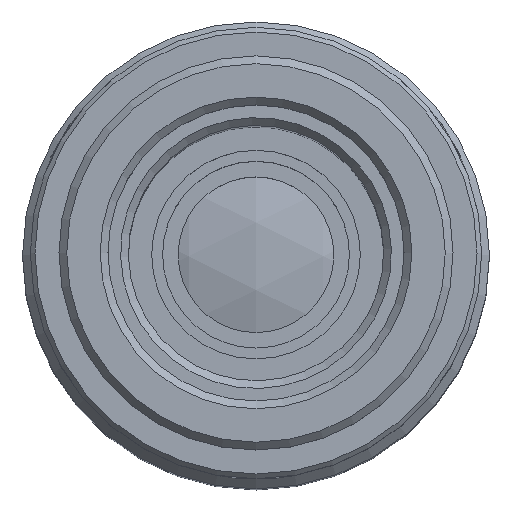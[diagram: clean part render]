
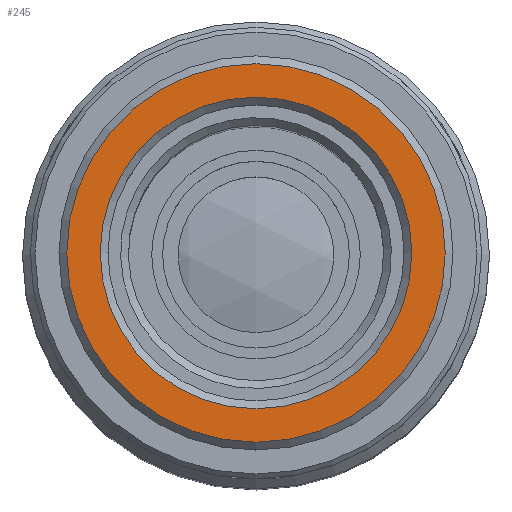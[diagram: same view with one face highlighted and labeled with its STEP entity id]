
A CAD part, top view. The second image highlights one B-rep face of the part: STEP entity #245.
In plain terms, the highlighted planar face has unit normal (0, 0, 1).
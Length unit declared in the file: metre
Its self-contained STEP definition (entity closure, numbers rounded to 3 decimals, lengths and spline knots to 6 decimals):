
#245=ADVANCED_FACE('NONE',(#615,#616),#617,.F.);
#615=FACE_BOUND('',#1223,.T.);
#616=FACE_OUTER_BOUND('',#1224,.T.);
#617=PLANE('',#1225);
#1223=EDGE_LOOP('',(#1931));
#1224=EDGE_LOOP('',(#1932));
#1225=AXIS2_PLACEMENT_3D('',#1933,#1934,#1935);
#1931=ORIENTED_EDGE('',*,*,#2908,.T.);
#1932=ORIENTED_EDGE('',*,*,#2909,.T.);
#1933=CARTESIAN_POINT('',(0.,0.01266,0.0));
#1934=DIRECTION('',(0.,0.0,-1.0));
#1935=DIRECTION('',(-1.0,0.0,0.));
#2908=EDGE_CURVE('NONE',#3346,#3346,#3347,.T.);
#2909=EDGE_CURVE('NONE',#3348,#3348,#3349,.T.);
#3346=VERTEX_POINT('',#4197);
#3347=CIRCLE('',#4198,0.01001);
#3348=VERTEX_POINT('',#4199);
#3349=CIRCLE('',#4200,0.01216);
#4197=CARTESIAN_POINT('',(-0.01001,0.,0.));
#4198=AXIS2_PLACEMENT_3D('',#4999,#5000,#5001);
#4199=CARTESIAN_POINT('',(-0.01216,0.,0.));
#4200=AXIS2_PLACEMENT_3D('',#5002,#5003,#5004);
#4999=CARTESIAN_POINT('',(0.,0.,0.0));
#5000=DIRECTION('',(0.,0.0,-1.0));
#5001=DIRECTION('',(-1.0,0.0,0.));
#5002=CARTESIAN_POINT('',(0.,0.,0.0));
#5003=DIRECTION('',(0.,0.0,1.0));
#5004=DIRECTION('',(-1.0,0.0,0.));
